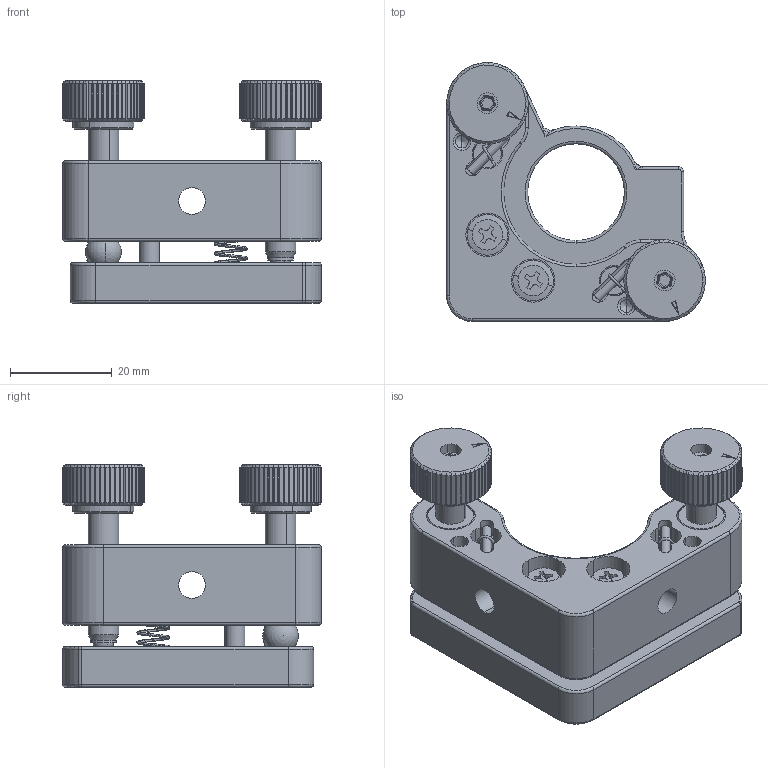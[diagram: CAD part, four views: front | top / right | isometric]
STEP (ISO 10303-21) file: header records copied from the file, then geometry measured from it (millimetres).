
FILE_DESCRIPTION (( 'STEP AP203' ), '1' );
FILE_NAME ('M-TNO-08R-HOX.STEP', '2020-07-09T00:47:32', ( '匠星' ), ( '' ), 'SwSTEP 2.0', 'SolidWorks 2019', '' );
FILE_SCHEMA (( 'CONFIG_CONTROL_DESIGN' ));
Length unit declared in the file: millimetre
Products named in the file (2): M-TNO-08R-HOX
Bounding box: 50.8 x 50.8 x 43.74 mm (x, y, z)
Volume: 30288.3 mm3; surface area: 17296.9 mm2
Topology: 17 solids, 18 shells, 971 faces, 2459 edges, 1547 vertices
Faces by surface type: cylinder 411, plane 386, torus 82, cone 60, sphere 22, bspline 10
Entity records: 34341 total; most frequent: CARTESIAN_POINT 11359, ORIENTED_EDGE 4836, DIRECTION 4760, EDGE_CURVE 2418, AXIS2_PLACEMENT_3D 1899, VERTEX_POINT 1540, EDGE_LOOP 1056, FACE_OUTER_BOUND 971
